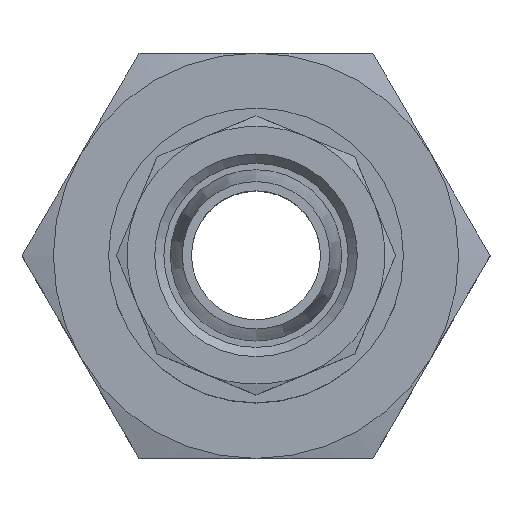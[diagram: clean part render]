
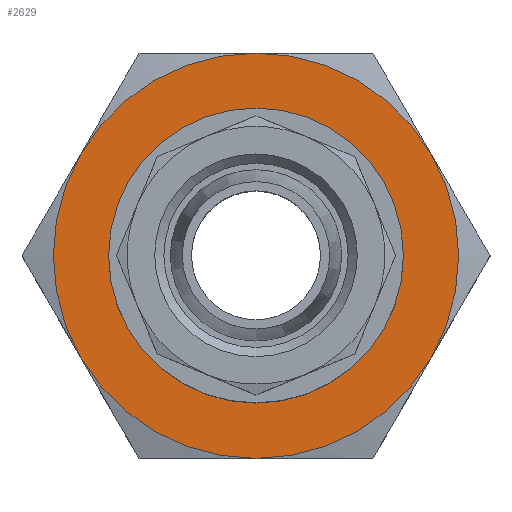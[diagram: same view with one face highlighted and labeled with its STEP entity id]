
A CAD part, top view. The second image highlights one B-rep face of the part: STEP entity #2629.
In plain terms, the highlighted planar face has unit normal (0, 0, 1) as drawn and (0, 1, 0) by its records, which use the part's own axes.
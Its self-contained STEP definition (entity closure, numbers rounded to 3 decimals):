
#1210=PLANE('',#2513);
#1368=ORIENTED_EDGE('',*,*,#1636,.T.);
#1369=ORIENTED_EDGE('',*,*,#1637,.F.);
#1370=ORIENTED_EDGE('',*,*,#1638,.T.);
#1371=ORIENTED_EDGE('',*,*,#1639,.T.);
#1372=ORIENTED_EDGE('',*,*,#1640,.T.);
#1373=ORIENTED_EDGE('',*,*,#1634,.T.);
#1374=ORIENTED_EDGE('',*,*,#1608,.F.);
#1458=CIRCLE('',#2472,6.25);
#1477=CIRCLE('',#2511,11.);
#1478=CIRCLE('',#2514,11.);
#1479=CIRCLE('',#2515,11.);
#1480=CIRCLE('',#2516,11.);
#1481=CIRCLE('',#2517,11.);
#1482=CIRCLE('',#2518,11.);
#1519=VERTEX_POINT('',#2278);
#1540=VERTEX_POINT('',#2334);
#1543=VERTEX_POINT('',#2343);
#1544=VERTEX_POINT('',#2347);
#1545=VERTEX_POINT('',#2349);
#1546=VERTEX_POINT('',#2351);
#1547=VERTEX_POINT('',#2353);
#1608=EDGE_CURVE('',#1519,#1519,#1458,.T.);
#1634=EDGE_CURVE('',#1540,#1543,#1477,.T.);
#1636=EDGE_CURVE('',#1543,#1544,#1478,.T.);
#1637=EDGE_CURVE('',#1545,#1544,#1479,.T.);
#1638=EDGE_CURVE('',#1545,#1546,#1480,.T.);
#1639=EDGE_CURVE('',#1546,#1547,#1481,.T.);
#1640=EDGE_CURVE('',#1547,#1540,#1482,.T.);
#1731=EDGE_LOOP('',(#1368,#1369,#1370,#1371,#1372,#1373));
#1732=EDGE_LOOP('',(#1374));
#1819=FACE_BOUND('',#1731,.T.);
#1820=FACE_BOUND('',#1732,.T.);
#1986=DIRECTION('',(0.,1.,0.));
#1987=DIRECTION('',(0.,0.,-6.25));
#2066=DIRECTION('',(0.,1.,0.));
#2067=DIRECTION('',(0.,0.,-11.));
#2070=DIRECTION('',(0.,1.,0.));
#2071=DIRECTION('',(1.,0.,0.));
#2072=DIRECTION('',(0.,1.,0.));
#2073=DIRECTION('',(-9.526,0.,-5.5));
#2074=DIRECTION('',(0.,-1.,0.));
#2075=DIRECTION('',(0.,0.,11.));
#2076=DIRECTION('',(0.,1.,0.));
#2077=DIRECTION('',(0.,0.,11.));
#2078=DIRECTION('',(0.,1.,0.));
#2079=DIRECTION('',(9.526,0.,5.5));
#2080=DIRECTION('',(0.,1.,0.));
#2081=DIRECTION('',(9.526,0.,-5.5));
#2278=CARTESIAN_POINT('',(25.032,30.916,-6.25));
#2279=CARTESIAN_POINT('',(25.032,30.916,0.));
#2334=CARTESIAN_POINT('',(25.032,30.916,-11.));
#2343=CARTESIAN_POINT('',(15.506,30.916,-5.5));
#2344=CARTESIAN_POINT('',(25.032,30.916,0.));
#2346=CARTESIAN_POINT('',(25.032,30.916,11.));
#2347=CARTESIAN_POINT('',(15.506,30.916,5.5));
#2348=CARTESIAN_POINT('',(25.032,30.916,0.));
#2349=CARTESIAN_POINT('',(25.032,30.916,11.));
#2350=CARTESIAN_POINT('',(25.032,30.916,0.));
#2351=CARTESIAN_POINT('',(34.559,30.916,5.5));
#2352=CARTESIAN_POINT('',(25.032,30.916,0.));
#2353=CARTESIAN_POINT('',(34.559,30.916,-5.5));
#2354=CARTESIAN_POINT('',(25.032,30.916,0.));
#2355=CARTESIAN_POINT('',(25.032,30.916,0.));
#2472=AXIS2_PLACEMENT_3D('',#2279,#1986,#1987);
#2511=AXIS2_PLACEMENT_3D('',#2344,#2066,#2067);
#2513=AXIS2_PLACEMENT_3D('',#2346,#2070,#2071);
#2514=AXIS2_PLACEMENT_3D('',#2348,#2072,#2073);
#2515=AXIS2_PLACEMENT_3D('',#2350,#2074,#2075);
#2516=AXIS2_PLACEMENT_3D('',#2352,#2076,#2077);
#2517=AXIS2_PLACEMENT_3D('',#2354,#2078,#2079);
#2518=AXIS2_PLACEMENT_3D('',#2355,#2080,#2081);
#2629=ADVANCED_FACE('',(#1819,#1820),#1210,.T.);
